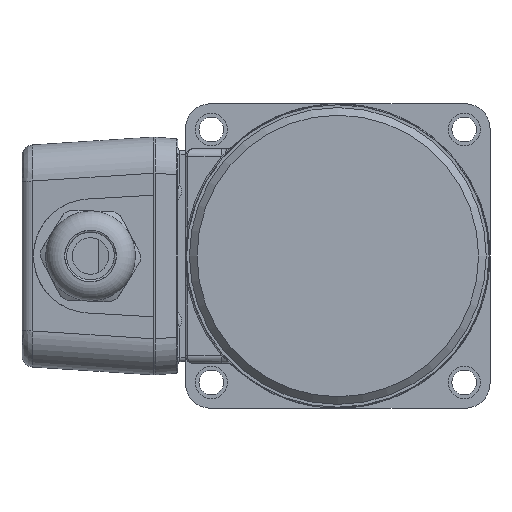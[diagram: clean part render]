
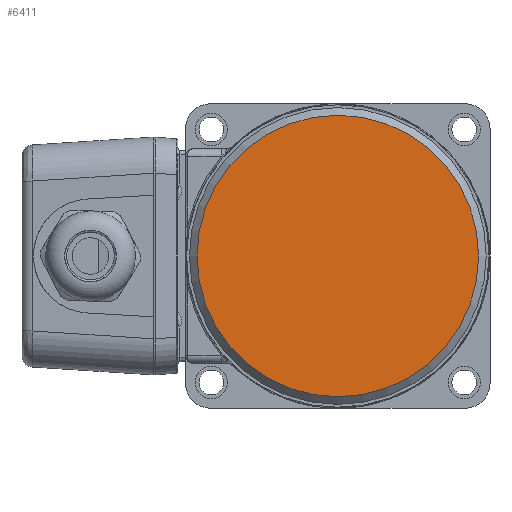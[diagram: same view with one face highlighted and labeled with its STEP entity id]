
A CAD part, left-side view. The second image highlights one B-rep face of the part: STEP entity #6411.
In plain terms, the highlighted planar face has unit normal (-1, 0, 0).
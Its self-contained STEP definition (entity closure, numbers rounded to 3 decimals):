
#819=CIRCLE('',#6985,37.);
#1188=FACE_OUTER_BOUND('',#1570,.T.);
#1570=EDGE_LOOP('',(#5585));
#3121=VERTEX_POINT('',#12722);
#3959=EDGE_CURVE('',#3121,#3121,#819,.T.);
#5585=ORIENTED_EDGE('',*,*,#3959,.F.);
#6091=PLANE('',#6984);
#6411=ADVANCED_FACE('',(#1188),#6091,.T.);
#6984=AXIS2_PLACEMENT_3D('',#12721,#8484,#8485);
#6985=AXIS2_PLACEMENT_3D('',#12723,#8486,#8487);
#8484=DIRECTION('center_axis',(-1.,0.,0.));
#8485=DIRECTION('ref_axis',(0.,0.,1.));
#8486=DIRECTION('center_axis',(1.,0.,0.));
#8487=DIRECTION('ref_axis',(0.,1.,0.));
#12721=CARTESIAN_POINT('Origin',(0.,18.5,0.));
#12722=CARTESIAN_POINT('',(0.,-37.,0.));
#12723=CARTESIAN_POINT('Origin',(0.,0.,
0.));
